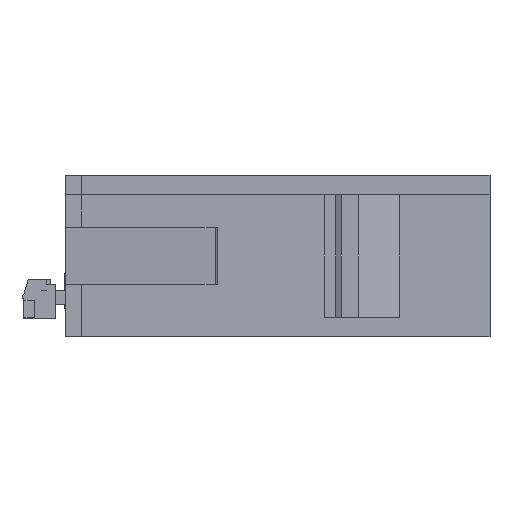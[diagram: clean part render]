
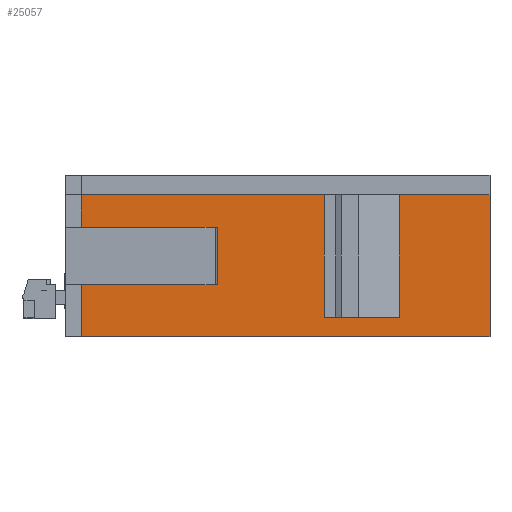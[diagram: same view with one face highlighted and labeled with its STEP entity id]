
A CAD part, front view. The second image highlights one B-rep face of the part: STEP entity #25057.
In plain terms, the highlighted planar face has unit normal (0, -1, 0).
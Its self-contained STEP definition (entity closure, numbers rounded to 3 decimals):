
#730 = ORIENTED_EDGE ( 'NONE', *, *, #68213, .T. ) ;
#842 = VERTEX_POINT ( 'NONE', #101694 ) ;
#1618 = VERTEX_POINT ( 'NONE', #29734 ) ;
#3699 = CARTESIAN_POINT ( 'NONE',  ( -170.447, 47.092, 45.655 ) ) ;
#3848 = CARTESIAN_POINT ( 'NONE',  ( -136.722, 47.092, 29.655 ) ) ;
#8972 = DIRECTION ( 'NONE',  ( -1., 0., 0. ) ) ;
#9266 = ORIENTED_EDGE ( 'NONE', *, *, #13943, .T. ) ;
#10435 = VECTOR ( 'NONE', #95967, 1000. ) ;
#11619 = EDGE_CURVE ( 'NONE', #46910, #21133, #113260, .T. ) ;
#12015 = DIRECTION ( 'NONE',  ( 0., 0., -1. ) ) ;
#12956 = CARTESIAN_POINT ( 'NONE',  ( -133.522, 47.092, 15.155 ) ) ;
#13338 = CARTESIAN_POINT ( 'NONE',  ( -171.447, 47.092, 15.155 ) ) ;
#13415 = DIRECTION ( 'NONE',  ( 1., 0., 0. ) ) ;
#13943 = EDGE_CURVE ( 'NONE', #63121, #842, #121245, .T. ) ;
#15834 = VECTOR ( 'NONE', #15871, 1000. ) ;
#15871 = DIRECTION ( 'NONE',  ( 0., 0., 1. ) ) ;
#18977 = VECTOR ( 'NONE', #104862, 1000. ) ;
#19605 = ORIENTED_EDGE ( 'NONE', *, *, #48437, .T. ) ;
#19865 = ORIENTED_EDGE ( 'NONE', *, *, #42255, .T. ) ;
#21014 = CARTESIAN_POINT ( 'NONE',  ( -133.522, 47.092, 29.655 ) ) ;
#21116 = VERTEX_POINT ( 'NONE', #3848 ) ;
#21133 = VERTEX_POINT ( 'NONE', #94510 ) ;
#23526 = CARTESIAN_POINT ( 'NONE',  ( -102.447, 47.092, 45.655 ) ) ;
#24713 = CARTESIAN_POINT ( 'NONE',  ( -102.447, 47.092, 54.655 ) ) ;
#25057 = ADVANCED_FACE ( 'NONE', ( #127988, #74772 ), #55068, .T. ) ;
#25987 = CARTESIAN_POINT ( 'NONE',  ( -136.722, 47.092, 15.155 ) ) ;
#28866 = EDGE_CURVE ( 'NONE', #842, #36270, #111803, .T. ) ;
#29408 = LINE ( 'NONE', #24713, #92082 ) ;
#29487 = VERTEX_POINT ( 'NONE', #53115 ) ;
#29734 = CARTESIAN_POINT ( 'NONE',  ( -104.047, 47.092, 54.655 ) ) ;
#29765 = ORIENTED_EDGE ( 'NONE', *, *, #60882, .T. ) ;
#30142 = DIRECTION ( 'NONE',  ( 0., 0., -1. ) ) ;
#30221 = CARTESIAN_POINT ( 'NONE',  ( -171.447, 47.092, 15.155 ) ) ;
#30840 = CARTESIAN_POINT ( 'NONE',  ( -102.447, 47.092, 45.655 ) ) ;
#32040 = VECTOR ( 'NONE', #12015, 1000. ) ;
#32456 = EDGE_CURVE ( 'NONE', #129899, #21116, #117073, .T. ) ;
#33108 = VECTOR ( 'NONE', #82176, 1000. ) ;
#33776 = ORIENTED_EDGE ( 'NONE', *, *, #106260, .T. ) ;
#34522 = CARTESIAN_POINT ( 'NONE',  ( -57.947, 47.092, 54.655 ) ) ;
#34811 = VERTEX_POINT ( 'NONE', #115663 ) ;
#34975 = VECTOR ( 'NONE', #30142, 1000. ) ;
#35152 = ORIENTED_EDGE ( 'NONE', *, *, #53072, .T. ) ;
#36270 = VERTEX_POINT ( 'NONE', #3699 ) ;
#38982 = EDGE_LOOP ( 'NONE', ( #111492, #19605, #19865, #116035, #45176, #48146, #29765, #9266, #65869, #109594, #33776, #35152 ) ) ;
#40340 = VECTOR ( 'NONE', #114453, 1000. ) ;
#41348 = VECTOR ( 'NONE', #53625, 1000. ) ;
#42255 = EDGE_CURVE ( 'NONE', #54307, #86474, #51422, .T. ) ;
#42423 = LINE ( 'NONE', #74317, #18977 ) ;
#42435 = LINE ( 'NONE', #45634, #15834 ) ;
#42782 = EDGE_LOOP ( 'NONE', ( #55077, #55840, #730, #121920 ) ) ;
#44033 = EDGE_CURVE ( 'NONE', #86474, #29487, #91326, .T. ) ;
#44378 = CARTESIAN_POINT ( 'NONE',  ( -102.447, 47.092, 29.655 ) ) ;
#45176 = ORIENTED_EDGE ( 'NONE', *, *, #93733, .T. ) ;
#45399 = DIRECTION ( 'NONE',  ( 0., -1., 0. ) ) ;
#45634 = CARTESIAN_POINT ( 'NONE',  ( -104.047, 47.092, 15.155 ) ) ;
#46910 = VERTEX_POINT ( 'NONE', #47996 ) ;
#47195 = CARTESIAN_POINT ( 'NONE',  ( -83.189, 47.092, 15.155 ) ) ;
#47996 = CARTESIAN_POINT ( 'NONE',  ( -136.722, 47.092, 45.655 ) ) ;
#48146 = ORIENTED_EDGE ( 'NONE', *, *, #50985, .T. ) ;
#48437 = EDGE_CURVE ( 'NONE', #62281, #54307, #42423, .T. ) ;
#49489 = LINE ( 'NONE', #122605, #99559 ) ;
#50985 = EDGE_CURVE ( 'NONE', #105386, #1618, #42435, .T. ) ;
#51422 = LINE ( 'NONE', #68990, #104597 ) ;
#51664 = CARTESIAN_POINT ( 'NONE',  ( -131.181, 47.092, 15.155 ) ) ;
#53072 = EDGE_CURVE ( 'NONE', #34811, #116911, #108669, .T. ) ;
#53115 = CARTESIAN_POINT ( 'NONE',  ( -83.189, 47.092, 20.655 ) ) ;
#53407 = VERTEX_POINT ( 'NONE', #57873 ) ;
#53625 = DIRECTION ( 'NONE',  ( 0., 0., -1. ) ) ;
#54307 = VERTEX_POINT ( 'NONE', #34522 ) ;
#55068 = PLANE ( 'NONE',  #79256 ) ;
#55077 = ORIENTED_EDGE ( 'NONE', *, *, #57689, .T. ) ;
#55840 = ORIENTED_EDGE ( 'NONE', *, *, #32456, .T. ) ;
#57294 = CARTESIAN_POINT ( 'NONE',  ( -171.447, 47.092, 54.655 ) ) ;
#57689 = EDGE_CURVE ( 'NONE', #21133, #129899, #85019, .T. ) ;
#57873 = CARTESIAN_POINT ( 'NONE',  ( -170.447, 47.092, 29.655 ) ) ;
#57978 = LINE ( 'NONE', #51664, #81478 ) ;
#58381 = VECTOR ( 'NONE', #123254, 1000. ) ;
#60882 = EDGE_CURVE ( 'NONE', #1618, #63121, #29408, .T. ) ;
#61723 = DIRECTION ( 'NONE',  ( 1., 0., 0. ) ) ;
#62281 = VERTEX_POINT ( 'NONE', #109566 ) ;
#63121 = VERTEX_POINT ( 'NONE', #57294 ) ;
#64939 = EDGE_CURVE ( 'NONE', #36270, #53407, #112944, .T. ) ;
#65869 = ORIENTED_EDGE ( 'NONE', *, *, #28866, .T. ) ;
#68213 = EDGE_CURVE ( 'NONE', #21116, #46910, #127903, .T. ) ;
#68990 = CARTESIAN_POINT ( 'NONE',  ( -102.447, 47.092, 54.655 ) ) ;
#71078 = DIRECTION ( 'NONE',  ( 1., 0., 0. ) ) ;
#72063 = EDGE_CURVE ( 'NONE', #116911, #62281, #57978, .T. ) ;
#72135 = CARTESIAN_POINT ( 'NONE',  ( -170.447, 47.092, 15.155 ) ) ;
#72719 = DIRECTION ( 'NONE',  ( -1., 0., 0. ) ) ;
#74317 = CARTESIAN_POINT ( 'NONE',  ( -57.947, 47.092, 15.155 ) ) ;
#74772 = FACE_OUTER_BOUND ( 'NONE', #38982, .T. ) ;
#79256 = AXIS2_PLACEMENT_3D ( 'NONE', #105306, #45399, #115461 ) ;
#81478 = VECTOR ( 'NONE', #61723, 1000. ) ;
#82031 = CARTESIAN_POINT ( 'NONE',  ( -171.447, 47.092, 15.155 ) ) ;
#82067 = VECTOR ( 'NONE', #13415, 1000. ) ;
#82176 = DIRECTION ( 'NONE',  ( 0., 0., -1. ) ) ;
#82452 = LINE ( 'NONE', #121914, #105910 ) ;
#83491 = VECTOR ( 'NONE', #71078, 1000. ) ;
#85019 = LINE ( 'NONE', #12956, #58381 ) ;
#86474 = VERTEX_POINT ( 'NONE', #112980 ) ;
#91326 = LINE ( 'NONE', #47195, #34975 ) ;
#92082 = VECTOR ( 'NONE', #94681, 1000. ) ;
#93733 = EDGE_CURVE ( 'NONE', #29487, #105386, #82452, .T. ) ;
#94510 = CARTESIAN_POINT ( 'NONE',  ( -133.522, 47.092, 45.655 ) ) ;
#94681 = DIRECTION ( 'NONE',  ( -1., 0., 0. ) ) ;
#95967 = DIRECTION ( 'NONE',  ( 0., 0., 1. ) ) ;
#99559 = VECTOR ( 'NONE', #72719, 1000. ) ;
#100625 = CARTESIAN_POINT ( 'NONE',  ( -104.047, 47.092, 20.655 ) ) ;
#101694 = CARTESIAN_POINT ( 'NONE',  ( -171.447, 47.092, 45.655 ) ) ;
#102189 = DIRECTION ( 'NONE',  ( -1., 0., 0. ) ) ;
#104597 = VECTOR ( 'NONE', #8972, 1000. ) ;
#104862 = DIRECTION ( 'NONE',  ( 0., 0., 1. ) ) ;
#105306 = CARTESIAN_POINT ( 'NONE',  ( -102.447, 47.092, 15.155 ) ) ;
#105386 = VERTEX_POINT ( 'NONE', #100625 ) ;
#105910 = VECTOR ( 'NONE', #102189, 1000. ) ;
#106260 = EDGE_CURVE ( 'NONE', #53407, #34811, #49489, .T. ) ;
#108669 = LINE ( 'NONE', #82031, #32040 ) ;
#109566 = CARTESIAN_POINT ( 'NONE',  ( -57.947, 47.092, 15.155 ) ) ;
#109594 = ORIENTED_EDGE ( 'NONE', *, *, #64939, .T. ) ;
#111492 = ORIENTED_EDGE ( 'NONE', *, *, #72063, .T. ) ;
#111803 = LINE ( 'NONE', #23526, #82067 ) ;
#112944 = LINE ( 'NONE', #72135, #33108 ) ;
#112980 = CARTESIAN_POINT ( 'NONE',  ( -83.189, 47.092, 54.655 ) ) ;
#113260 = LINE ( 'NONE', #30840, #83491 ) ;
#114453 = DIRECTION ( 'NONE',  ( -1., 0., 0. ) ) ;
#115461 = DIRECTION ( 'NONE',  ( 0., 0., 1. ) ) ;
#115663 = CARTESIAN_POINT ( 'NONE',  ( -171.447, 47.092, 29.655 ) ) ;
#116035 = ORIENTED_EDGE ( 'NONE', *, *, #44033, .T. ) ;
#116911 = VERTEX_POINT ( 'NONE', #30221 ) ;
#117073 = LINE ( 'NONE', #44378, #40340 ) ;
#121245 = LINE ( 'NONE', #13338, #41348 ) ;
#121914 = CARTESIAN_POINT ( 'NONE',  ( -102.447, 47.092, 20.655 ) ) ;
#121920 = ORIENTED_EDGE ( 'NONE', *, *, #11619, .T. ) ;
#122605 = CARTESIAN_POINT ( 'NONE',  ( -102.447, 47.092, 29.655 ) ) ;
#123254 = DIRECTION ( 'NONE',  ( 0., 0., -1. ) ) ;
#127903 = LINE ( 'NONE', #25987, #10435 ) ;
#127988 = FACE_BOUND ( 'NONE', #42782, .T. ) ;
#129899 = VERTEX_POINT ( 'NONE', #21014 ) ;
